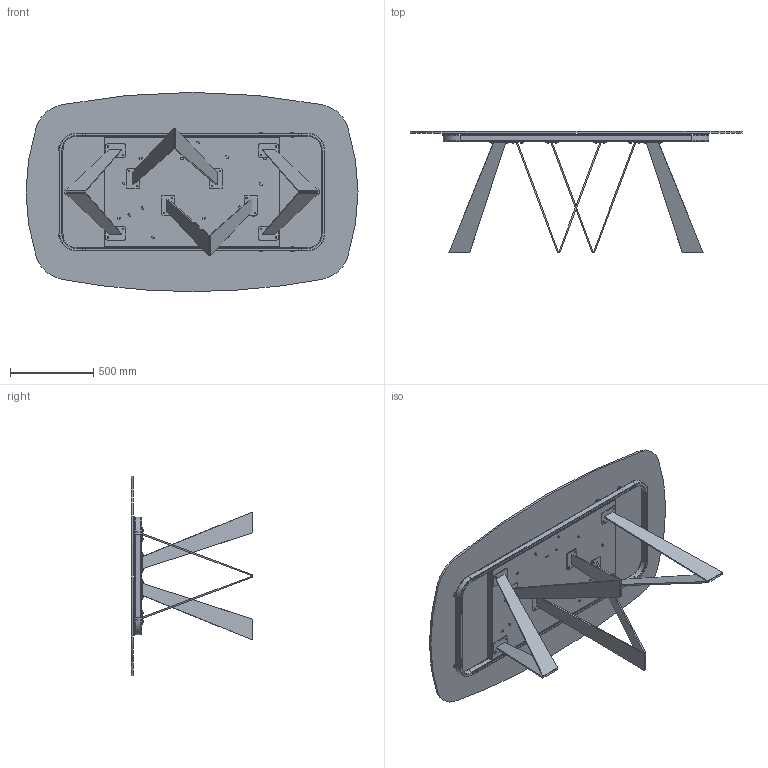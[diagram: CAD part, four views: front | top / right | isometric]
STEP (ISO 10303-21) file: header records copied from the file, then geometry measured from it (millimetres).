
FILE_DESCRIPTION (( 'STEP AP203' ), '1' );
FILE_NAME ('NO41G_Noa_200x120x75h_Glass Shaped.STEP', '2024-08-07T14:15:48', ( '' ), ( '' ), 'SwSTEP 2.0', 'SolidWorks 2022', '' );
FILE_SCHEMA (( 'CONFIG_CONTROL_DESIGN' ));
Length unit declared in the file: millimetre
Products named in the file (14): NOA000001GMB-00-Piastra Principale gamba NOA_Piatto SX; M8xXXmm_M8x16mm; 434070-00-PIEDINO TPV GOMMA NERO D. 30x8max18; NOA000001GMB-00-Piastra Principale gamba NOA_Piatto DX; Assieme NOA var 3_noa 200-240; TTAV06-01-TELAIO X TAVOLI PLAI ONDA NOA 240cm_TTAV06; NOA000000-00-NOA BASE GREZZA; TTAV06_02-01-VASSOIO TAVOLI PLAI ONDA NOA 240; C4XCRXX-00-Piani Sagomati in Cristallo_2000x1200; NO41G_Noa_200x120x75h_Glass Shaped; MAPPA; TTAV06_01-01-STRUTTURA X TAVOLI PLAI ONDA NOA 240_Default<A macchina>; rondella M8_8X16; NOA000001PTRS-00-Piastra rettangoalre con fori
Assembly tree (51 placements, depth 4):
  NO41G_Noa_200x120x75h_Glass Shaped
    C4XCRXX-00-Piani Sagomati in Cristallo_2000x1200
    Assieme NOA var 3_noa 200-240
      NOA000000-00-NOA BASE GREZZA  x4
        NOA000001GMB-00-Piastra Principale gamba NOA_Piatto SX
        NOA000001GMB-00-Piastra Principale gamba NOA_Piatto DX
        NOA000001PTRS-00-Piastra rettangoalre con fori
      TTAV06-01-TELAIO X TAVOLI PLAI ONDA NOA 240cm_TTAV06
        TTAV06_02-01-VASSOIO TAVOLI PLAI ONDA NOA 240
        TTAV06_01-01-STRUTTURA X TAVOLI PLAI ONDA NOA 240_Default<A macchina>
    M8xXXmm_M8x16mm  x16
    rondella M8_8X16  x16
    434070-00-PIEDINO TPV GOMMA NERO D. 30x8max18  x6
  MAPPA
Bounding box: 2000 x 731.8 x 1200 mm (x, y, z)
Volume: 35179928.1 mm3; surface area: 8445972.1 mm2
Topology: 70 solids, 70 shells, 1477 faces, 3375 edges, 2022 vertices
Faces by surface type: plane 584, cylinder 389, cone 256, torus 248
Entity records: 20239 total; most frequent: DIRECTION 3308, CARTESIAN_POINT 3057, ORIENTED_EDGE 2898, EDGE_CURVE 1449, AXIS2_PLACEMENT_3D 1243, VERTEX_POINT 906, LINE 822, VECTOR 822
